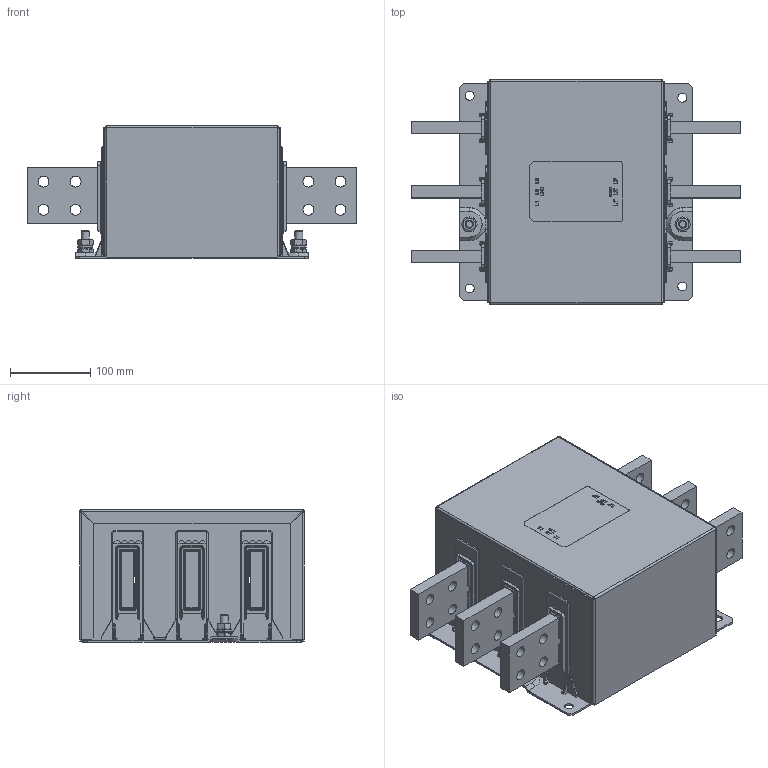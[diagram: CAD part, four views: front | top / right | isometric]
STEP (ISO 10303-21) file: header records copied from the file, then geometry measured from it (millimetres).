
FILE_DESCRIPTION((''),'2;1');
FILE_NAME('P:\Construction\Filter_Marketing\FN\FN3311\FN3311-2300-99\FN331X-2300-99-CXX-RXX.stp','2015-05-04T17:41:10',('erika.jenzer'),(''),'Autodesk Inventor 2013','Autodesk Inventor 2013','');
FILE_SCHEMA(('AUTOMOTIVE_DESIGN { 1 0 10303 214 1 1 1 1 }'));
Length unit declared in the file: millimetre
Products named in the file (1): FN331X-2300-99-CXX-RXX
Bounding box: 410 x 280 x 165.1 mm (x, y, z)
Volume: 1231252.3 mm3; surface area: 761857.7 mm2
Topology: 1 solids, 1 shells, 2994 faces, 7737 edges, 4734 vertices
Faces by surface type: plane 1342, cylinder 960, bspline 514, torus 68, sphere 60, cone 50
Full cylindrical faces by diameter (mm): 4.82 x2, 10 x4, 11 x4, 13.5 x24, 16 x2, 18 x2
Entity records: 102185 total; most frequent: CARTESIAN_POINT 27688, ORIENTED_EDGE 15198, DIRECTION 14545, EDGE_CURVE 7599, AXIS2_PLACEMENT_3D 5007, VERTEX_POINT 4710, VECTOR 4531, LINE 4531
